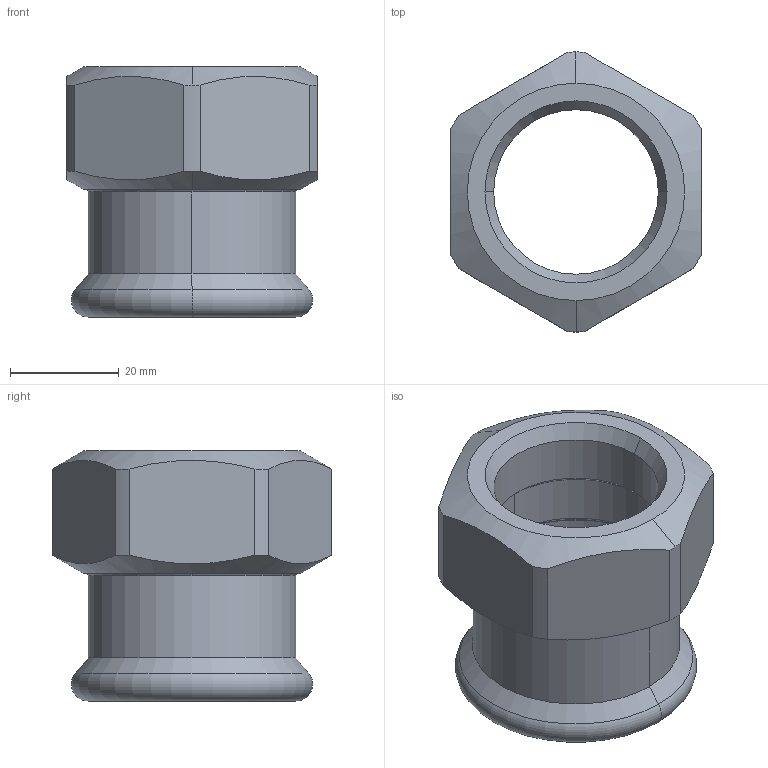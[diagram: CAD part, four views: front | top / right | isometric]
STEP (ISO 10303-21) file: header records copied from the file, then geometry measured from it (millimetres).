
FILE_DESCRIPTION(('CoCreate Modeling STEP Export'),'2;1');
FILE_NAME('C1402 35xRp1.stp','2014-11-07T13:26:22',(''),(''),'CoCreate Modeling STEP processor for AP214 (Solid Model)','CoCreate Modeling 17.00A 17-Jun-2010 (C) Parametric Technology GmbH','');
FILE_SCHEMA(('AUTOMOTIVE_DESIGN { 1 0 10303 214 1 1 1 1 }'));
Length unit declared in the file: millimetre
Products named in the file (2): C1402_35xRp1
Assembly tree (1 placements, depth 2):
  C1402_35xRp1
    C1402_35xRp1
Bounding box: 46 x 51.5 x 46 mm (x, y, z)
Volume: 27907 mm3; surface area: 13302.6 mm2
Topology: 1 solids, 1 shells, 49 faces, 117 edges, 73 vertices
Faces by surface type: cylinder 18, cone 16, plane 11, torus 4
Entity records: 2278 total; most frequent: CARTESIAN_POINT 1162, ORIENTED_EDGE 234, DIRECTION 206, EDGE_CURVE 117, AXIS2_PLACEMENT_3D 83, VERTEX_POINT 73, EDGE_LOOP 54, FACE_OUTER_BOUND 49
